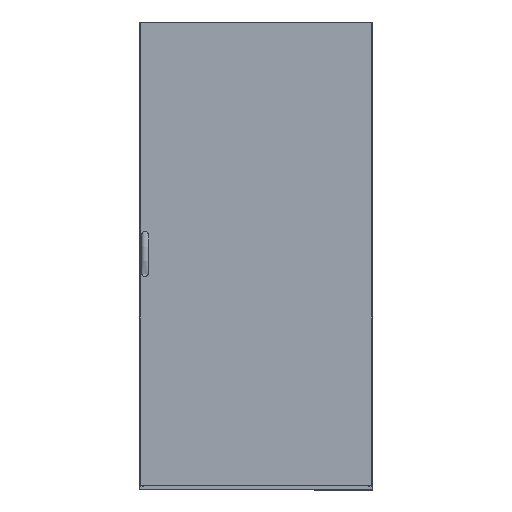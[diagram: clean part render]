
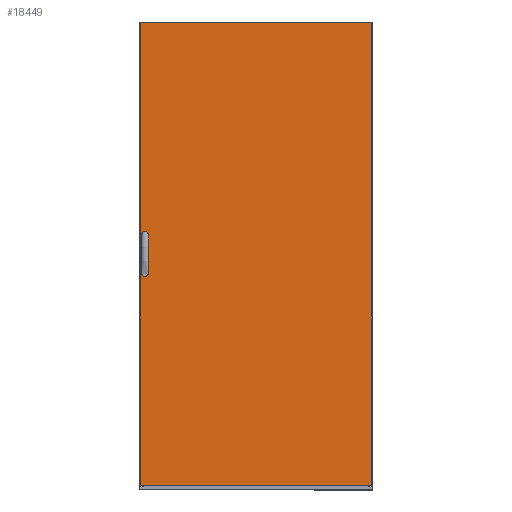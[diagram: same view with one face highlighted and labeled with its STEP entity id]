
A CAD part, top view. The second image highlights one B-rep face of the part: STEP entity #18449.
In plain terms, the highlighted planar face has unit normal (0, 0, 1) as drawn and (0, 0, -1) by its records, which use the part's own axes.
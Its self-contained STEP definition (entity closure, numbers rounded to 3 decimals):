
#293=CIRCLE('',#20503,2.6);
#294=CIRCLE('',#20504,2.6);
#2599=ORIENTED_EDGE('',*,*,#6769,.T.);
#2600=ORIENTED_EDGE('',*,*,#6770,.T.);
#2601=ORIENTED_EDGE('',*,*,#6771,.T.);
#2602=ORIENTED_EDGE('',*,*,#6772,.T.);
#2603=ORIENTED_EDGE('',*,*,#6773,.T.);
#2604=ORIENTED_EDGE('',*,*,#6774,.T.);
#2605=ORIENTED_EDGE('',*,*,#6775,.T.);
#2606=ORIENTED_EDGE('',*,*,#6776,.T.);
#2607=ORIENTED_EDGE('',*,*,#6777,.T.);
#2608=ORIENTED_EDGE('',*,*,#6778,.T.);
#2609=ORIENTED_EDGE('',*,*,#6779,.T.);
#2610=ORIENTED_EDGE('',*,*,#6780,.T.);
#2611=ORIENTED_EDGE('',*,*,#6781,.T.);
#2612=ORIENTED_EDGE('',*,*,#6782,.T.);
#2613=ORIENTED_EDGE('',*,*,#6783,.T.);
#2614=ORIENTED_EDGE('',*,*,#6784,.T.);
#2615=ORIENTED_EDGE('',*,*,#6785,.T.);
#2616=ORIENTED_EDGE('',*,*,#6786,.F.);
#2617=ORIENTED_EDGE('',*,*,#6787,.F.);
#2618=ORIENTED_EDGE('',*,*,#6788,.T.);
#2619=ORIENTED_EDGE('',*,*,#6789,.T.);
#2620=ORIENTED_EDGE('',*,*,#6790,.T.);
#6769=EDGE_CURVE('',#9030,#9031,#10968,.T.);
#6770=EDGE_CURVE('',#9031,#9032,#10969,.T.);
#6771=EDGE_CURVE('',#9032,#9033,#10970,.T.);
#6772=EDGE_CURVE('',#9033,#9034,#10971,.T.);
#6773=EDGE_CURVE('',#9034,#9035,#10972,.T.);
#6774=EDGE_CURVE('',#9035,#9036,#10973,.T.);
#6775=EDGE_CURVE('',#9036,#9037,#10974,.T.);
#6776=EDGE_CURVE('',#9037,#9038,#10975,.T.);
#6777=EDGE_CURVE('',#9038,#9039,#10976,.T.);
#6778=EDGE_CURVE('',#9039,#9040,#10977,.T.);
#6779=EDGE_CURVE('',#9040,#9041,#10978,.T.);
#6780=EDGE_CURVE('',#9041,#9042,#10979,.T.);
#6781=EDGE_CURVE('',#9042,#9043,#10980,.T.);
#6782=EDGE_CURVE('',#9043,#9044,#10981,.T.);
#6783=EDGE_CURVE('',#9044,#9045,#10982,.T.);
#6784=EDGE_CURVE('',#9045,#9030,#10983,.T.);
#6785=EDGE_CURVE('',#9046,#9047,#10984,.T.);
#6786=EDGE_CURVE('',#9048,#9047,#10985,.T.);
#6787=EDGE_CURVE('',#9049,#9048,#10986,.T.);
#6788=EDGE_CURVE('',#9049,#9046,#10987,.T.);
#6789=EDGE_CURVE('',#9050,#9050,#293,.T.);
#6790=EDGE_CURVE('',#9051,#9051,#294,.T.);
#9030=VERTEX_POINT('',#28435);
#9031=VERTEX_POINT('',#28436);
#9032=VERTEX_POINT('',#28438);
#9033=VERTEX_POINT('',#28440);
#9034=VERTEX_POINT('',#28442);
#9035=VERTEX_POINT('',#28444);
#9036=VERTEX_POINT('',#28446);
#9037=VERTEX_POINT('',#28448);
#9038=VERTEX_POINT('',#28450);
#9039=VERTEX_POINT('',#28452);
#9040=VERTEX_POINT('',#28454);
#9041=VERTEX_POINT('',#28456);
#9042=VERTEX_POINT('',#28458);
#9043=VERTEX_POINT('',#28460);
#9044=VERTEX_POINT('',#28462);
#9045=VERTEX_POINT('',#28464);
#9046=VERTEX_POINT('',#28467);
#9047=VERTEX_POINT('',#28468);
#9048=VERTEX_POINT('',#28470);
#9049=VERTEX_POINT('',#28472);
#9050=VERTEX_POINT('',#28475);
#9051=VERTEX_POINT('',#28477);
#10968=LINE('',#28434,#13244);
#10969=LINE('',#28437,#13245);
#10970=LINE('',#28439,#13246);
#10971=LINE('',#28441,#13247);
#10972=LINE('',#28443,#13248);
#10973=LINE('',#28445,#13249);
#10974=LINE('',#28447,#13250);
#10975=LINE('',#28449,#13251);
#10976=LINE('',#28451,#13252);
#10977=LINE('',#28453,#13253);
#10978=LINE('',#28455,#13254);
#10979=LINE('',#28457,#13255);
#10980=LINE('',#28459,#13256);
#10981=LINE('',#28461,#13257);
#10982=LINE('',#28463,#13258);
#10983=LINE('',#28465,#13259);
#10984=LINE('',#28466,#13260);
#10985=LINE('',#28469,#13261);
#10986=LINE('',#28471,#13262);
#10987=LINE('',#28473,#13263);
#13244=VECTOR('',#23254,1000.);
#13245=VECTOR('',#23255,1000.);
#13246=VECTOR('',#23256,1000.);
#13247=VECTOR('',#23257,1000.);
#13248=VECTOR('',#23258,1000.);
#13249=VECTOR('',#23259,1000.);
#13250=VECTOR('',#23260,1000.);
#13251=VECTOR('',#23261,1000.);
#13252=VECTOR('',#23262,1000.);
#13253=VECTOR('',#23263,1000.);
#13254=VECTOR('',#23264,1000.);
#13255=VECTOR('',#23265,1000.);
#13256=VECTOR('',#23266,1000.);
#13257=VECTOR('',#23267,1000.);
#13258=VECTOR('',#23268,1000.);
#13259=VECTOR('',#23269,1000.);
#13260=VECTOR('',#23270,1000.);
#13261=VECTOR('',#23271,1000.);
#13262=VECTOR('',#23272,1000.);
#13263=VECTOR('',#23273,1000.);
#15193=EDGE_LOOP('',(#2599,#2600,#2601,#2602,#2603,#2604,#2605,#2606,#2607,
#2608,#2609,#2610,#2611,#2612,#2613,#2614));
#15194=EDGE_LOOP('',(#2615,#2616,#2617,#2618));
#15195=EDGE_LOOP('',(#2619));
#15196=EDGE_LOOP('',(#2620));
#16447=FACE_BOUND('',#15193,.T.);
#16448=FACE_BOUND('',#15194,.T.);
#16449=FACE_BOUND('',#15195,.T.);
#16450=FACE_BOUND('',#15196,.T.);
#17511=PLANE('',#20502);
#18449=ADVANCED_FACE('',(#16447,#16448,#16449,#16450),#17511,.F.);
#20502=AXIS2_PLACEMENT_3D('',#28433,#23252,#23253);
#20503=AXIS2_PLACEMENT_3D('',#28474,#23274,#23275);
#20504=AXIS2_PLACEMENT_3D('',#28476,#23276,#23277);
#23252=DIRECTION('',(0.,0.,1.));
#23253=DIRECTION('',(1.,0.,0.));
#23254=DIRECTION('',(0.,-1.,0.));
#23255=DIRECTION('',(0.342,-0.94,0.));
#23256=DIRECTION('',(1.,0.,0.));
#23257=DIRECTION('',(0.,1.,0.));
#23258=DIRECTION('',(1.,0.,0.));
#23259=DIRECTION('',(0.,-1.,0.));
#23260=DIRECTION('',(1.,0.,0.));
#23261=DIRECTION('',(0.342,0.94,0.));
#23262=DIRECTION('',(0.,1.,0.));
#23263=DIRECTION('',(-0.342,0.94,0.));
#23264=DIRECTION('',(-1.,0.,0.));
#23265=DIRECTION('',(0.,-1.,0.));
#23266=DIRECTION('',(-1.,0.,0.));
#23267=DIRECTION('',(0.,1.,0.));
#23268=DIRECTION('',(-1.,0.,0.));
#23269=DIRECTION('',(-0.342,-0.94,0.));
#23270=DIRECTION('',(-1.,0.,0.));
#23271=DIRECTION('',(0.,-1.,0.));
#23272=DIRECTION('',(-1.,0.,0.));
#23273=DIRECTION('',(0.,-1.,0.));
#23274=DIRECTION('',(0.,0.,1.));
#23275=DIRECTION('',(1.,0.,0.));
#23276=DIRECTION('',(0.,0.,1.));
#23277=DIRECTION('',(1.,0.,0.));
#28433=CARTESIAN_POINT('',(496.5,1982.,-16.8));
#28434=CARTESIAN_POINT('',(462.95,1056.256,-16.8));
#28435=CARTESIAN_POINT('',(462.95,1056.256,-16.8));
#28436=CARTESIAN_POINT('',(462.95,925.744,-16.8));
#28437=CARTESIAN_POINT('',(462.95,925.744,-16.8));
#28438=CARTESIAN_POINT('',(464.95,920.25,-16.8));
#28439=CARTESIAN_POINT('',(464.95,920.25,-16.8));
#28440=CARTESIAN_POINT('',(470.2,920.25,-16.8));
#28441=CARTESIAN_POINT('',(470.2,920.25,-16.8));
#28442=CARTESIAN_POINT('',(470.2,928.,-16.8));
#28443=CARTESIAN_POINT('',(470.2,928.,-16.8));
#28444=CARTESIAN_POINT('',(481.2,928.,-16.8));
#28445=CARTESIAN_POINT('',(481.2,928.,-16.8));
#28446=CARTESIAN_POINT('',(481.2,920.25,-16.8));
#28447=CARTESIAN_POINT('',(481.2,920.25,-16.8));
#28448=CARTESIAN_POINT('',(486.45,920.25,-16.8));
#28449=CARTESIAN_POINT('',(486.45,920.25,-16.8));
#28450=CARTESIAN_POINT('',(488.45,925.744,-16.8));
#28451=CARTESIAN_POINT('',(488.45,925.744,-16.8));
#28452=CARTESIAN_POINT('',(488.45,1056.256,-16.8));
#28453=CARTESIAN_POINT('',(488.45,1056.256,-16.8));
#28454=CARTESIAN_POINT('',(486.45,1061.75,-16.8));
#28455=CARTESIAN_POINT('',(486.45,1061.75,-16.8));
#28456=CARTESIAN_POINT('',(481.2,1061.75,-16.8));
#28457=CARTESIAN_POINT('',(481.2,1061.75,-16.8));
#28458=CARTESIAN_POINT('',(481.2,1054.,-16.8));
#28459=CARTESIAN_POINT('',(481.2,1054.,-16.8));
#28460=CARTESIAN_POINT('',(470.2,1054.,-16.8));
#28461=CARTESIAN_POINT('',(470.2,1054.,-16.8));
#28462=CARTESIAN_POINT('',(470.2,1061.75,-16.8));
#28463=CARTESIAN_POINT('',(470.2,1061.75,-16.8));
#28464=CARTESIAN_POINT('',(464.95,1061.75,-16.8));
#28465=CARTESIAN_POINT('',(464.95,1061.75,-16.8));
#28466=CARTESIAN_POINT('',(496.5,0.,-16.8));
#28467=CARTESIAN_POINT('',(496.5,0.,-16.8));
#28468=CARTESIAN_POINT('',(-496.5,0.,-16.8));
#28469=CARTESIAN_POINT('',(-496.5,1982.,-16.8));
#28470=CARTESIAN_POINT('',(-496.5,1982.,-16.8));
#28471=CARTESIAN_POINT('',(496.5,1982.,-16.8));
#28472=CARTESIAN_POINT('',(496.5,1982.,-16.8));
#28473=CARTESIAN_POINT('',(496.5,1982.,-16.8));
#28474=CARTESIAN_POINT('',(475.7,1061.,-16.8));
#28475=CARTESIAN_POINT('',(478.3,1061.,-16.8));
#28476=CARTESIAN_POINT('',(475.7,921.,-16.8));
#28477=CARTESIAN_POINT('',(478.3,921.,-16.8));
